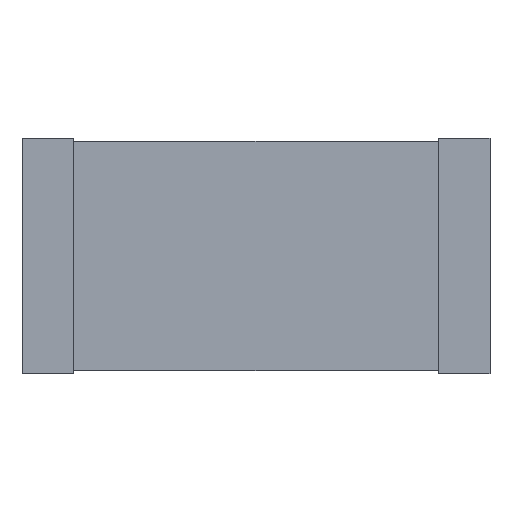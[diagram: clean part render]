
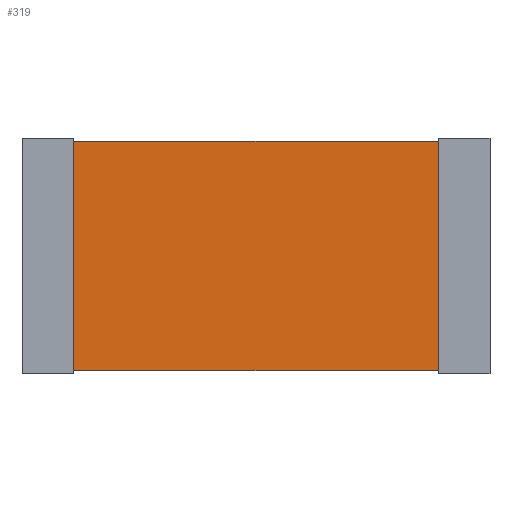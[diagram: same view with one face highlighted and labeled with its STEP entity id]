
A CAD part, top view. The second image highlights one B-rep face of the part: STEP entity #319.
In plain terms, the highlighted planar face has unit normal (0, 0, 1).
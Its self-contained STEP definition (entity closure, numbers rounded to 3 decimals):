
#95=CARTESIAN_POINT('',(2.515,-1.579,0.614));
#94=VERTEX_POINT('',#95);
#105=CARTESIAN_POINT('',(-2.515,-1.579,0.614));
#104=VERTEX_POINT('',#105);
#103=EDGE_CURVE('',#104,#94,#108,.T.);
#108=LINE('',#105,#110);
#110=VECTOR('',#111,5.029);
#111=DIRECTION('',(1.0,0.0,0.0));
#144=CARTESIAN_POINT('',(2.515,1.579,0.614));
#143=VERTEX_POINT('',#144);
#152=EDGE_CURVE('',#94,#143,#157,.T.);
#157=LINE('',#95,#159);
#159=VECTOR('',#160,3.158);
#160=DIRECTION('',(0.0,1.0,0.0));
#193=CARTESIAN_POINT('',(-2.515,1.579,0.614));
#192=VERTEX_POINT('',#193);
#201=EDGE_CURVE('',#143,#192,#206,.T.);
#206=LINE('',#144,#208);
#208=VECTOR('',#209,5.029);
#209=DIRECTION('',(-1.0,0.0,0.0));
#250=EDGE_CURVE('',#192,#104,#255,.T.);
#255=LINE('',#193,#257);
#257=VECTOR('',#258,3.158);
#258=DIRECTION('',(0.0,-1.0,0.0));
#319=ADVANCED_FACE('',(#325),#320,.T.);
#320=PLANE('',#321);
#321=AXIS2_PLACEMENT_3D('',#322,#323,#324);
#322=CARTESIAN_POINT('',(-2.515,-1.579,0.614));
#323=DIRECTION('',(0.0,0.0,1.0));
#324=DIRECTION('',(0.,1.,0.));
#325=FACE_OUTER_BOUND('',#326,.T.);
#326=EDGE_LOOP('',(#327,#337,#347,#357));
#327=ORIENTED_EDGE('',*,*,#103,.T.);
#337=ORIENTED_EDGE('',*,*,#152,.T.);
#347=ORIENTED_EDGE('',*,*,#201,.T.);
#357=ORIENTED_EDGE('',*,*,#250,.T.);
